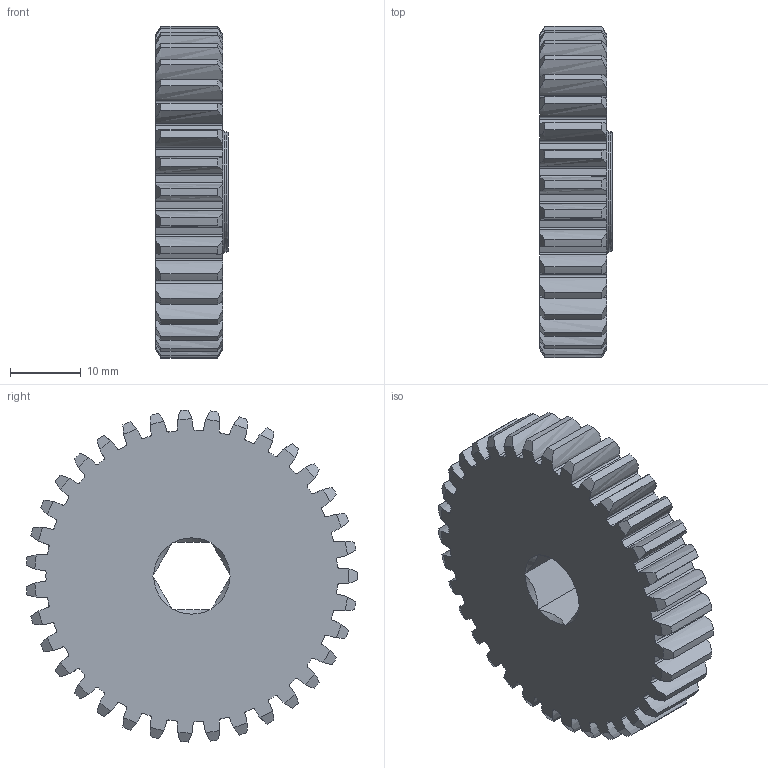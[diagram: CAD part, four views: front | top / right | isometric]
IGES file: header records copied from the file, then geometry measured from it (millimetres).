
Global section: file name: No Iges File Name specified; native system: AutoDesk Inventor R6.0; preprocessor: AutoDesk Inventor Iges Exporter R6.0; author: No Author specified; organization: No Organization specified; date: 20080103.183351; units: inch
Bounding box: 10.29 x 46.94 x 46.98 mm (x, y, z)
Surface area: 5931.2 mm2 (no closed solid volume)
Topology: 0 solids, 0 shells, 304 faces, 1823 edges, 1820 vertices
Faces by surface type: revolution 294, plane 9, bspline 1
